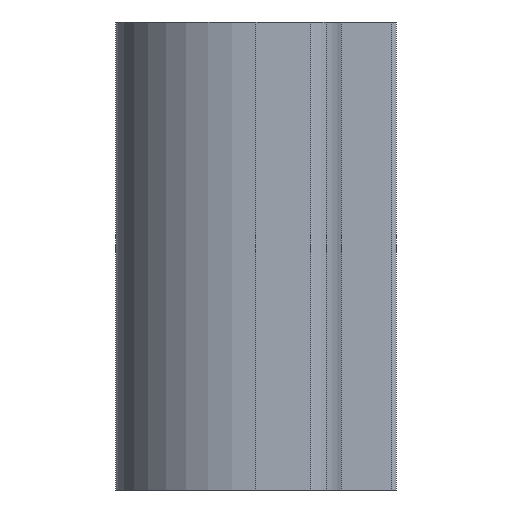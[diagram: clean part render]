
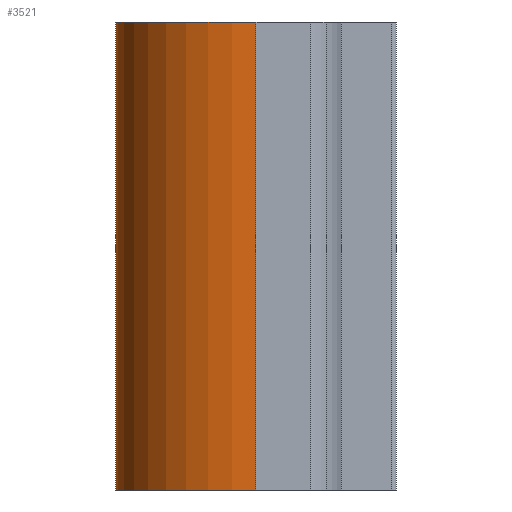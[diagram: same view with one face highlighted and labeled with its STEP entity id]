
A CAD part, left-side view. The second image highlights one B-rep face of the part: STEP entity #3521.
In plain terms, the highlighted cylindrical face has radius 30 mm (diameter 60 mm), a partial arc.
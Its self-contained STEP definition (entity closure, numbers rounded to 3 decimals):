
#40 = EDGE_CURVE ( 'NONE', #3302, #3407, #2813, .T. ) ;
#228 = VECTOR ( 'NONE', #1694, 1000. ) ;
#305 = CIRCLE ( 'NONE', #2224, 30. ) ;
#316 = CARTESIAN_POINT ( 'NONE',  ( 0., 30., 50. ) ) ;
#335 = CYLINDRICAL_SURFACE ( 'NONE', #651, 30. ) ;
#357 = FACE_OUTER_BOUND ( 'NONE', #3497, .T. ) ;
#482 = VERTEX_POINT ( 'NONE', #2201 ) ;
#529 = VECTOR ( 'NONE', #4088, 1000. ) ;
#651 = AXIS2_PLACEMENT_3D ( 'NONE', #1994, #2580, #1618 ) ;
#780 = CIRCLE ( 'NONE', #1622, 30. ) ;
#781 = CARTESIAN_POINT ( 'NONE',  ( -30., 0., 50. ) ) ;
#793 = ORIENTED_EDGE ( 'NONE', *, *, #3033, .T. ) ;
#919 = ORIENTED_EDGE ( 'NONE', *, *, #4033, .F. ) ;
#1057 = ORIENTED_EDGE ( 'NONE', *, *, #40, .F. ) ;
#1177 = DIRECTION ( 'NONE',  ( 1., 0., 0. ) ) ;
#1211 = DIRECTION ( 'NONE',  ( 1., 0., 0. ) ) ;
#1252 = CARTESIAN_POINT ( 'NONE',  ( 0., 0., -50. ) ) ;
#1436 = VERTEX_POINT ( 'NONE', #781 ) ;
#1618 = DIRECTION ( 'NONE',  ( 1., 0., 0. ) ) ;
#1622 = AXIS2_PLACEMENT_3D ( 'NONE', #3394, #3414, #1211 ) ;
#1694 = DIRECTION ( 'NONE',  ( 0., 0., 1. ) ) ;
#1789 = DIRECTION ( 'NONE',  ( 0., 0., 1. ) ) ;
#1994 = CARTESIAN_POINT ( 'NONE',  ( 0., 0., -50. ) ) ;
#2201 = CARTESIAN_POINT ( 'NONE',  ( -30., 0., -50. ) ) ;
#2224 = AXIS2_PLACEMENT_3D ( 'NONE', #1252, #1789, #1177 ) ;
#2416 = CARTESIAN_POINT ( 'NONE',  ( 0., 30., -50. ) ) ;
#2580 = DIRECTION ( 'NONE',  ( 0., 0., 1. ) ) ;
#2813 = LINE ( 'NONE', #2416, #529 ) ;
#3033 = EDGE_CURVE ( 'NONE', #482, #1436, #3881, .T. ) ;
#3302 = VERTEX_POINT ( 'NONE', #3316 ) ;
#3316 = CARTESIAN_POINT ( 'NONE',  ( 0., 30., -50. ) ) ;
#3394 = CARTESIAN_POINT ( 'NONE',  ( 0., 0., 50. ) ) ;
#3407 = VERTEX_POINT ( 'NONE', #316 ) ;
#3414 = DIRECTION ( 'NONE',  ( 0., 0., 1. ) ) ;
#3485 = ORIENTED_EDGE ( 'NONE', *, *, #4058, .T. ) ;
#3497 = EDGE_LOOP ( 'NONE', ( #919, #1057, #3485, #793 ) ) ;
#3521 = ADVANCED_FACE ( 'NONE', ( #357 ), #335, .T. ) ;
#3881 = LINE ( 'NONE', #3929, #228 ) ;
#3929 = CARTESIAN_POINT ( 'NONE',  ( -30., 0., -50. ) ) ;
#4033 = EDGE_CURVE ( 'NONE', #3407, #1436, #780, .T. ) ;
#4058 = EDGE_CURVE ( 'NONE', #3302, #482, #305, .T. ) ;
#4088 = DIRECTION ( 'NONE',  ( 0., 0., 1. ) ) ;
